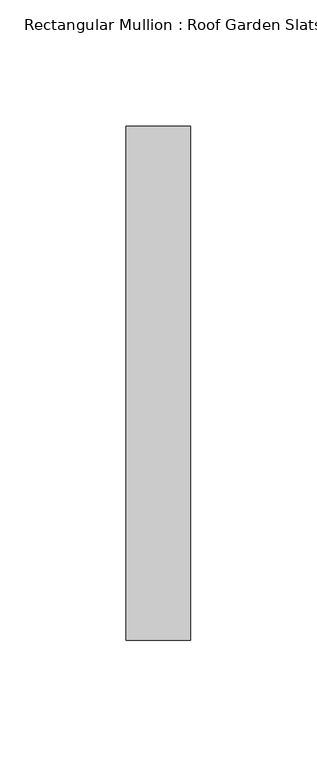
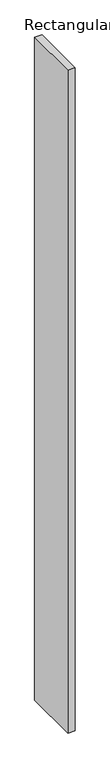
"""IFC4 building model written with IfcOpenShell, lengths in millimetres: member geometry, Rectangular Mullion : Roof Garden Slats."""

import ifcopenshell
import ifcopenshell.guid

model = None  # the IFC model being written
_history = None  # IfcOwnerHistory: only IFC2X3 demands one
_inside = {}  # id of a spatial element -> (the spatial element, [elements in it])
_under = {}  # id of a project, library or spatial element -> (it, [spatial elements below it])
_declared = {}  # id of a project -> (the project, [libraries it declares])
_typed = {}  # id of a type object -> (the type object, [elements of that type])
_made_of = {}  # id of a material, layer set ... -> (it, [elements and type objects made of it])


def new_model(schema):
    """Start an empty IFC model of exactly this schema.

    Asked for "IFC4X3", IfcOpenShell would pick the latest addendum, in which some entities
    have other attributes; the version numbers below select the first issue.
    IFC2X3 requires an IfcOwnerHistory on every rooted entity: one is made here for all.
    """
    global model, _history
    if schema == "IFC4X3":
        model = ifcopenshell.file(schema_version=(4, 3, 0, 0))
    else:
        model = ifcopenshell.file(schema=schema)
    _inside.clear()
    _under.clear()
    _declared.clear()
    _typed.clear()
    _made_of.clear()
    _history = None
    if model.schema == "IFC2X3":
        org = make("IfcOrganization", Name="unknown")
        user = make(
            "IfcPersonAndOrganization",
            ThePerson=make("IfcPerson", FamilyName="unknown"),
            TheOrganization=org,
        )
        app = make(
            "IfcApplication",
            ApplicationDeveloper=org,
            Version="unknown",
            ApplicationFullName="unknown",
            ApplicationIdentifier="unknown",
        )
        _history = make(
            "IfcOwnerHistory",
            OwningUser=user,
            OwningApplication=app,
            ChangeAction="ADDED",
            CreationDate=0,
        )
    return model


def make(cls, **values):
    """One entity of the class cls with the attributes given. An attribute that is None is left unset."""
    return model.create_entity(
        cls, **{name: value for name, value in values.items() if value is not None}
    )


def rooted(cls, **values):
    """An entity with a GlobalId (a new one), such as an element, a storey or a relation."""
    return make(cls, GlobalId=ifcopenshell.guid.new(), OwnerHistory=_history, **values)


def si_unit(unit_type, name, prefix=None):
    """IfcSIUnit, for example si_unit("LENGTHUNIT", "METRE", prefix="MILLI")."""
    return make("IfcSIUnit", UnitType=unit_type, Prefix=prefix, Name=name)


def assignment(units):
    """IfcUnitAssignment: the units of a project."""
    return None if units is None else make("IfcUnitAssignment", Units=units)


def point(xyz):
    """IfcCartesianPoint."""
    return None if xyz is None else make("IfcCartesianPoint", Coordinates=xyz)


def direction(xyz):
    """IfcDirection."""
    return None if xyz is None else make("IfcDirection", DirectionRatios=xyz)


def frame(location, z_axis=None, x_axis=None):
    """IfcAxis2Placement3D, a coordinate frame: its origin and axes. An axis left out is left unset."""
    return make(
        "IfcAxis2Placement3D",
        Location=point(location),
        Axis=direction(z_axis),
        RefDirection=direction(x_axis),
    )


def origin():
    """The frame at (0, 0, 0) with its axes left unset."""
    return frame((0.0, 0.0, 0.0))


def place(relative_to, where):
    """IfcLocalPlacement: puts the frame where relative to a parent placement (None: the world)."""
    return make(
        "IfcLocalPlacement", PlacementRelTo=relative_to, RelativePlacement=where
    )


def context(
    kind, dimensions, precision=None, world=None, true_north=None, identifier=None
):
    """IfcGeometricRepresentationContext, for example the 3D "Model" context."""
    return make(
        "IfcGeometricRepresentationContext",
        ContextIdentifier=identifier,
        ContextType=kind,
        CoordinateSpaceDimension=dimensions,
        Precision=precision,
        WorldCoordinateSystem=world,
        TrueNorth=true_north,
    )


def project(units=None, contexts=None):
    """IfcProject with its units and contexts."""
    return rooted(
        "IfcProject",
        Name="project",
        RepresentationContexts=contexts,
        UnitsInContext=assignment(units),
    )


def spatial(cls, under=None, at=None, **own):
    """A site, building, storey or space (cls), placed at a placement, below another one or the project."""
    s = rooted(cls, ObjectPlacement=at, **own)
    if under is not None:
        _under.setdefault(under.id(), (under, []))[1].append(s)
    return s


def polyline(points):
    """IfcPolyline through the points."""
    return make("IfcPolyline", Points=[point(p) for p in points])


def outline(outer, holes=None, kind="AREA"):
    """IfcArbitraryClosedProfileDef: a profile drawn as a closed curve; with holes, ...WithVoids."""
    if holes is None:
        return make("IfcArbitraryClosedProfileDef", ProfileType=kind, OuterCurve=outer)
    return make(
        "IfcArbitraryProfileDefWithVoids",
        ProfileType=kind,
        OuterCurve=outer,
        InnerCurves=holes,
    )


def extrude(swept, where, along, depth):
    """IfcExtrudedAreaSolid: the profile swept, set in the frame where, extruded along a direction by depth."""
    return make(
        "IfcExtrudedAreaSolid",
        SweptArea=swept,
        Position=where,
        ExtrudedDirection=direction(along),
        Depth=depth,
    )


def shape(context_of_items, identifier, shape_type, items):
    """IfcShapeRepresentation: the items that make up one representation, for example the "Body"."""
    return make(
        "IfcShapeRepresentation",
        ContextOfItems=context_of_items,
        RepresentationIdentifier=identifier,
        RepresentationType=shape_type,
        Items=items,
    )


def source(mapping_origin, context_of_items, identifier, shape_type, items):
    """IfcRepresentationMap: a shape defined once, which mapped items show again and again."""
    return make(
        "IfcRepresentationMap",
        MappingOrigin=mapping_origin,
        MappedRepresentation=shape(context_of_items, identifier, shape_type, items),
    )


def transform(
    local_origin,
    x_axis=None,
    y_axis=None,
    z_axis=None,
    scale=None,
    scale2=None,
    scale3=None,
    uniform=True,
):
    """IfcCartesianTransformationOperator3D, or its non-uniform kind. x_axis, y_axis, z_axis: its Axis1, 2, 3."""
    if uniform:
        return make(
            "IfcCartesianTransformationOperator3D",
            Axis1=direction(x_axis),
            Axis2=direction(y_axis),
            LocalOrigin=point(local_origin),
            Scale=scale,
            Axis3=direction(z_axis),
        )
    return make(
        "IfcCartesianTransformationOperator3DnonUniform",
        Axis1=direction(x_axis),
        Axis2=direction(y_axis),
        LocalOrigin=point(local_origin),
        Scale=scale,
        Axis3=direction(z_axis),
        Scale2=scale2,
        Scale3=scale3,
    )


def mapped(mapping_source, mapping_target):
    """IfcMappedItem: shows the shape of a source again, moved by a transform."""
    return make(
        "IfcMappedItem", MappingSource=mapping_source, MappingTarget=mapping_target
    )


def made_of(thing, what):
    """Note that an element or type object is made of a material, layer set ...; save() writes the relation."""
    if what is not None:
        _made_of.setdefault(what.id(), (what, []))[1].append(thing)
    return thing


def element(
    cls,
    number,
    at=None,
    inside=None,
    cuts=None,
    type_object=None,
    material=None,
    context=None,
    identifier="Body",
    shape_type=None,
    held_by="IfcProductDefinitionShape",
    body=None,
    shapes=None,
    **own,
):
    """One element of the class cls, such as IfcWall. Its Tag is "e" and its number.

    at: its placement. inside: the storey or other place that contains it. cuts: it is an
    opening in that element (IfcRelVoidsElement). A single representation is given by context,
    identifier, shape_type and body (its items); several are given by shapes. held_by: the class
    of the entity that holds the representations. save() writes the other relations.
    """
    e = rooted(cls, Tag="e%d" % number, ObjectPlacement=at, **own)
    if body is not None:
        shapes = [shape(context, identifier, shape_type, body)]
    if shapes is not None:
        e.Representation = make(held_by, Representations=shapes)
    if inside is not None:
        _inside.setdefault(inside.id(), (inside, []))[1].append(e)
    if cuts is not None:
        rooted(
            "IfcRelVoidsElement", RelatingBuildingElement=cuts, RelatedOpeningElement=e
        )
    if type_object is not None:
        _typed.setdefault(type_object.id(), (type_object, []))[1].append(e)
    return made_of(e, material)


def aggregate(whole, parts):
    """IfcRelAggregates: a whole, such as a stair, and the parts it consists of."""
    return rooted("IfcRelAggregates", RelatingObject=whole, RelatedObjects=parts)


def save(model, path):
    """Write the relations noted so far, then the file.

    IfcRelAggregates (storeys below a building ...), IfcRelContainedInSpatialStructure (elements
    in a storey), IfcRelDefinesByType, IfcRelAssociatesMaterial and IfcRelDeclares: one each for
    every whole, place, type object, material and project.
    """
    for whole, parts in _under.values():
        aggregate(whole, parts)
    for where, things in _inside.values():
        rooted(
            "IfcRelContainedInSpatialStructure",
            RelatedElements=things,
            RelatingStructure=where,
        )
    for kind, things in _typed.values():
        rooted("IfcRelDefinesByType", RelatedObjects=things, RelatingType=kind)
    for what, things in _made_of.values():
        rooted("IfcRelAssociatesMaterial", RelatedObjects=things, RelatingMaterial=what)
    for by, libraries in _declared.values():
        rooted("IfcRelDeclares", RelatingContext=by, RelatedDefinitions=libraries)
    model.write(path)


def rectangular_mullion_roof_garden_slats_caf771c7(model_context):
    return source(origin(), model_context, "Body", "SweptSolid", [
        extrude(outline(polyline([(12.7, 139.7), (12.7, -63.5), (-12.7, -63.5), (-12.7, 139.7), (12.7, 139.7)])), frame((0.0, 0.0, -2468.6261016), z_axis=(0.0, 0.0, 1.0), x_axis=(1.0, 0.0, 0.0)), (0.0, 0.0, 1.0), 2468.6261016),
    ])


if __name__ == "__main__":
    model = new_model("IFC4")
    model_context = context("Model", 3, world=origin())
    ifc_project = project(units=[si_unit("LENGTHUNIT", "METRE", prefix="MILLI")], contexts=[model_context])
    site = spatial("IfcSite", under=ifc_project)
    building = spatial("IfcBuilding", under=site)
    placement = place(None, origin())
    rectangular_mullion_roof_garden_slats_shape = rectangular_mullion_roof_garden_slats_caf771c7(model_context)
    element("IfcMember", 1, ObjectType="Rectangular Mullion : Roof Garden Slats", at=placement, inside=building, context=model_context, shape_type="MappedRepresentation", body=[
        mapped(rectangular_mullion_roof_garden_slats_shape, transform((0.0, 0.0, 0.0), x_axis=(1.0, 0.0, 0.0), y_axis=(0.0, 1.0, 0.0), z_axis=(0.0, 0.0, 1.0))),
    ])
    save(model, "model.ifc")
